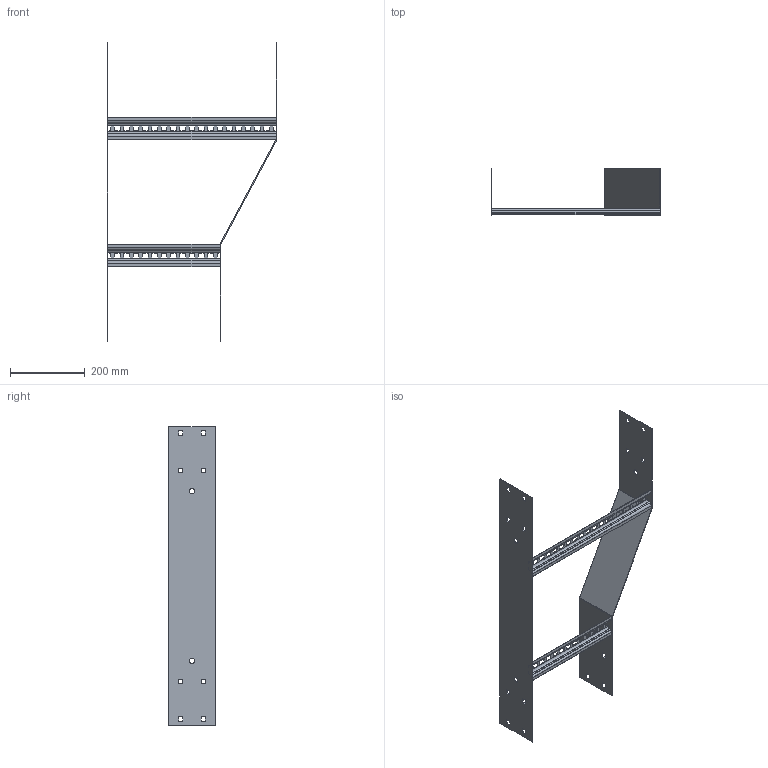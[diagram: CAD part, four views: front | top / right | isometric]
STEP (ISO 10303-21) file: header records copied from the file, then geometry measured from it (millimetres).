
FILE_DESCRIPTION (( 'STEP AP203' ), '1' );
FILE_NAME ('N3 LHR450300.STEP', '2024-08-27T06:16:35', ( '' ), ( '' ), 'SwSTEP 2.0', 'SolidWorks 2023', '' );
FILE_SCHEMA (( 'CONFIG_CONTROL_DESIGN' ));
Length unit declared in the file: millimetre
Products named in the file (5): N3 Back Plate_800; N3 LHR450300; N3 Reducer side plate_LHR300x450; Ladder Rung_Ladder Rung -  450mm; Ladder Rung_Ladder Rung -  300mm
Assembly tree (4 placements, depth 2):
  N3 LHR450300
    N3 Reducer side plate_LHR300x450
    Ladder Rung_Ladder Rung -  300mm
    Ladder Rung_Ladder Rung -  450mm
    N3 Back Plate_800
Bounding box: 454 x 124 x 800 mm (x, y, z)
Volume: 480332.5 mm3; surface area: 515347.5 mm2
Topology: 4 solids, 4 shells, 304 faces, 808 edges, 512 vertices
Faces by surface type: plane 276, cylinder 28
Entity records: 9903 total; most frequent: CARTESIAN_POINT 1631, ORIENTED_EDGE 1616, DIRECTION 1486, EDGE_CURVE 808, LINE 752, VECTOR 752, VERTEX_POINT 512, EDGE_LOOP 400
